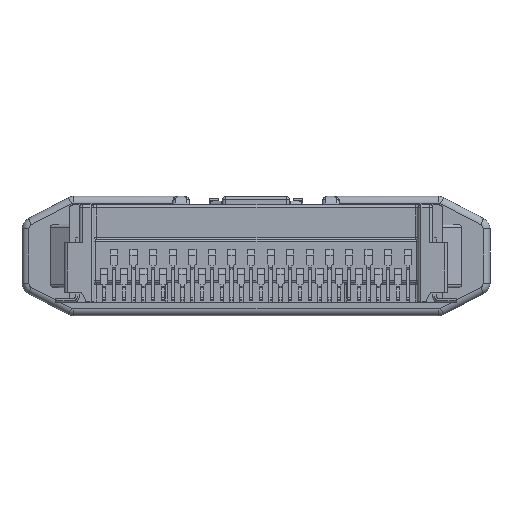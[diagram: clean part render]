
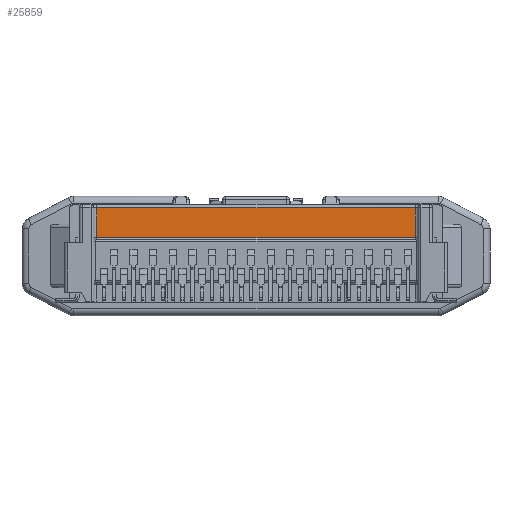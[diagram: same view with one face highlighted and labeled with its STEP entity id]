
A CAD part, top view. The second image highlights one B-rep face of the part: STEP entity #25859.
In plain terms, the highlighted planar face has unit normal (0, 0, 1).
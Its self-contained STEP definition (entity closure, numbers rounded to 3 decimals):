
#377 = ORIENTED_EDGE ( 'NONE', *, *, #38875, .T. ) ;
#2195 = DIRECTION ( 'NONE',  ( 0., 1., 0. ) ) ;
#2501 = DIRECTION ( 'NONE',  ( 1., 0., 0. ) ) ;
#4446 = VECTOR ( 'NONE', #19522, 1000. ) ;
#4746 = CARTESIAN_POINT ( 'NONE',  ( -58.037, 26.842, 2.158 ) ) ;
#5037 = EDGE_CURVE ( 'NONE', #12800, #19643, #9744, .T. ) ;
#5591 = DIRECTION ( 'NONE',  ( 1., 0., 0. ) ) ;
#7269 = AXIS2_PLACEMENT_3D ( 'NONE', #22564, #36576, #5591 ) ;
#8804 = EDGE_CURVE ( 'NONE', #40615, #10618, #26974, .T. ) ;
#9744 = LINE ( 'NONE', #13117, #10451 ) ;
#10451 = VECTOR ( 'NONE', #2501, 1000. ) ;
#10618 = VERTEX_POINT ( 'NONE', #4746 ) ;
#11532 = EDGE_LOOP ( 'NONE', ( #377, #16212, #19048, #23955 ) ) ;
#12654 = CARTESIAN_POINT ( 'NONE',  ( -58.037, 23.792, 2.158 ) ) ;
#12800 = VERTEX_POINT ( 'NONE', #12654 ) ;
#12864 = CARTESIAN_POINT ( 'NONE',  ( -58.037, 17.212, 2.158 ) ) ;
#13117 = CARTESIAN_POINT ( 'NONE',  ( -59.837, 23.792, 2.158 ) ) ;
#16212 = ORIENTED_EDGE ( 'NONE', *, *, #8804, .T. ) ;
#17444 = VECTOR ( 'NONE', #2195, 1000. ) ;
#18730 = PLANE ( 'NONE',  #7269 ) ;
#19048 = ORIENTED_EDGE ( 'NONE', *, *, #29236, .T. ) ;
#19522 = DIRECTION ( 'NONE',  ( -1., 0., 0. ) ) ;
#19643 = VERTEX_POINT ( 'NONE', #40685 ) ;
#20333 = DIRECTION ( 'NONE',  ( 0., -1., 0. ) ) ;
#21456 = LINE ( 'NONE', #35243, #17444 ) ;
#22124 = FACE_OUTER_BOUND ( 'NONE', #11532, .T. ) ;
#22564 = CARTESIAN_POINT ( 'NONE',  ( -59.837, 17.212, 2.158 ) ) ;
#23955 = ORIENTED_EDGE ( 'NONE', *, *, #5037, .T. ) ;
#25859 = ADVANCED_FACE ( 'NONE', ( #22124 ), #18730, .T. ) ;
#26974 = LINE ( 'NONE', #44164, #4446 ) ;
#29236 = EDGE_CURVE ( 'NONE', #10618, #12800, #43853, .T. ) ;
#35243 = CARTESIAN_POINT ( 'NONE',  ( -25.537, 27.142, 2.158 ) ) ;
#36576 = DIRECTION ( 'NONE',  ( 0., 0., 1. ) ) ;
#38089 = CARTESIAN_POINT ( 'NONE',  ( -25.537, 26.842, 2.158 ) ) ;
#38774 = VECTOR ( 'NONE', #20333, 1000. ) ;
#38875 = EDGE_CURVE ( 'NONE', #19643, #40615, #21456, .T. ) ;
#40615 = VERTEX_POINT ( 'NONE', #38089 ) ;
#40685 = CARTESIAN_POINT ( 'NONE',  ( -25.537, 23.792, 2.158 ) ) ;
#43853 = LINE ( 'NONE', #12864, #38774 ) ;
#44164 = CARTESIAN_POINT ( 'NONE',  ( -59.837, 26.842, 2.158 ) ) ;
